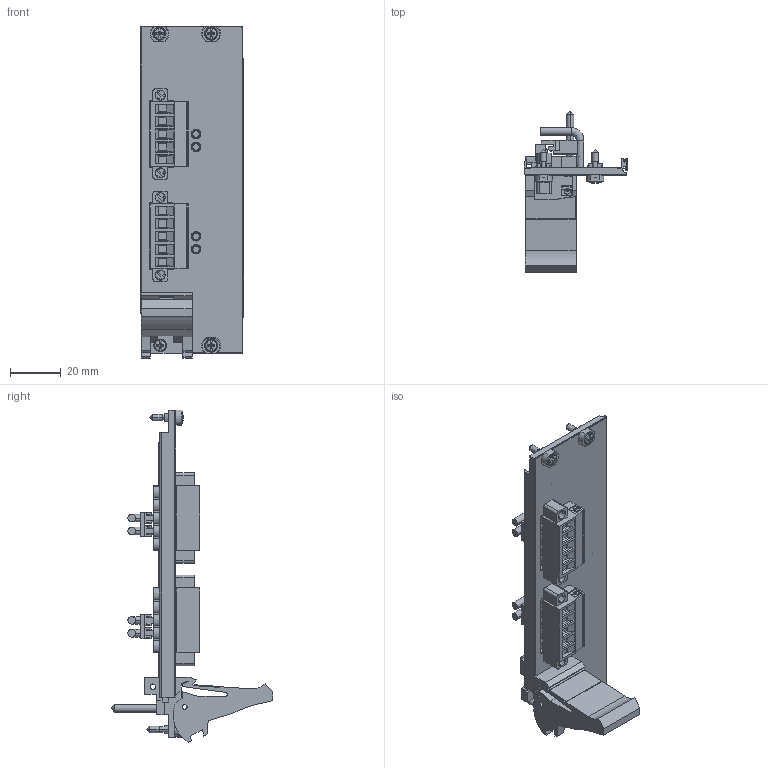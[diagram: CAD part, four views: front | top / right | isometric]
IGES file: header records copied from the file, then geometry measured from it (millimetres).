
Start section:  PTC IGES file: cu_pxie-4154.igs
Global section: file name: cu_pxie-4154.igs; native system: Pro/ENGINEER by Parametric Technology Corporation; preprocessor: 2006510; author: jjorden; organization: Unknown; date: 20100803.162457; units: inch
Bounding box: 40.52 x 63.53 x 130.35 mm (x, y, z)
Surface area: 28890.1 mm2 (no closed solid volume)
Topology: 0 solids, 0 shells, 1435 faces, 7468 edges, 7424 vertices
Faces by surface type: bspline 970, revolution 465
